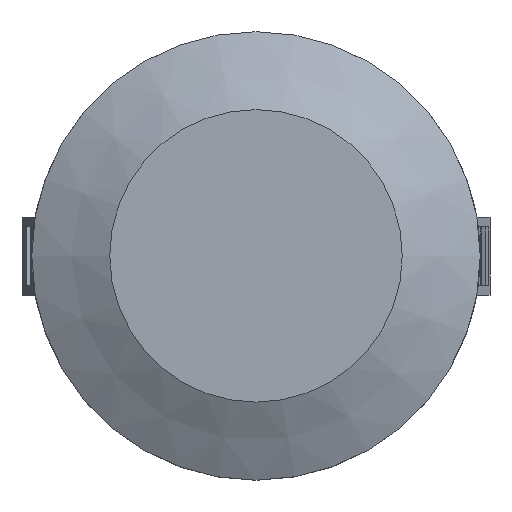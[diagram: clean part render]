
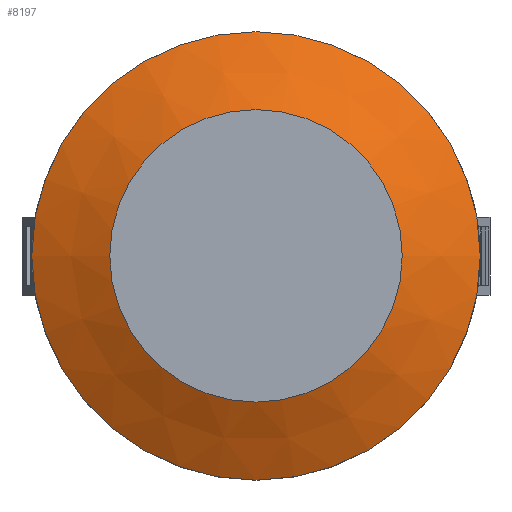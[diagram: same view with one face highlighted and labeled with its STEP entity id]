
A CAD part, top view. The second image highlights one B-rep face of the part: STEP entity #8197.
In plain terms, the highlighted conical face has half-angle 63.435 degrees and reference radius 5.75 mm.
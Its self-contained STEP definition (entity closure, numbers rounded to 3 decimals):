
#7898 = VERTEX_POINT('',#7899);
#7899 = CARTESIAN_POINT('',(5.75,0.,2.));
#7906 = CYLINDRICAL_SURFACE('',#7907,5.75);
#7907 = AXIS2_PLACEMENT_3D('',#7908,#7909,#7910);
#7908 = CARTESIAN_POINT('',(0.,0.,0.));
#7909 = DIRECTION('',(-0.,-0.,-1.));
#7910 = DIRECTION('',(1.,0.,0.));
#8171 = EDGE_CURVE('',#7898,#7898,#8172,.T.);
#8172 = SURFACE_CURVE('',#8173,(#8178,#8185),.PCURVE_S1.);
#8173 = CIRCLE('',#8174,5.75);
#8174 = AXIS2_PLACEMENT_3D('',#8175,#8176,#8177);
#8175 = CARTESIAN_POINT('',(0.,0.,2.));
#8176 = DIRECTION('',(0.,0.,1.));
#8177 = DIRECTION('',(1.,0.,0.));
#8178 = PCURVE('',#7906,#8179);
#8179 = DEFINITIONAL_REPRESENTATION('',(#8180),#8184);
#8180 = LINE('',#8181,#8182);
#8181 = CARTESIAN_POINT('',(-0.,-2.));
#8182 = VECTOR('',#8183,1.);
#8183 = DIRECTION('',(-1.,0.));
#8184 = ( GEOMETRIC_REPRESENTATION_CONTEXT(2) 
PARAMETRIC_REPRESENTATION_CONTEXT() REPRESENTATION_CONTEXT('2D SPACE',''
  ) );
#8185 = PCURVE('',#8186,#8191);
#8186 = CONICAL_SURFACE('',#8187,5.75,1.107);
#8187 = AXIS2_PLACEMENT_3D('',#8188,#8189,#8190);
#8188 = CARTESIAN_POINT('',(0.,0.,2.));
#8189 = DIRECTION('',(-0.,-0.,-1.));
#8190 = DIRECTION('',(1.,0.,0.));
#8191 = DEFINITIONAL_REPRESENTATION('',(#8192),#8196);
#8192 = LINE('',#8193,#8194);
#8193 = CARTESIAN_POINT('',(-0.,-0.));
#8194 = VECTOR('',#8195,1.);
#8195 = DIRECTION('',(-1.,-0.));
#8196 = ( GEOMETRIC_REPRESENTATION_CONTEXT(2) 
PARAMETRIC_REPRESENTATION_CONTEXT() REPRESENTATION_CONTEXT('2D SPACE',''
  ) );
#8197 = ADVANCED_FACE('',(#8198),#8186,.T.);
#8198 = FACE_BOUND('',#8199,.T.);
#8199 = EDGE_LOOP('',(#8200,#8223,#8224,#8225));
#8200 = ORIENTED_EDGE('',*,*,#8201,.F.);
#8201 = EDGE_CURVE('',#7898,#8202,#8204,.T.);
#8202 = VERTEX_POINT('',#8203);
#8203 = CARTESIAN_POINT('',(3.75,0.,3.));
#8204 = SEAM_CURVE('',#8205,(#8209,#8216),.PCURVE_S1.);
#8205 = LINE('',#8206,#8207);
#8206 = CARTESIAN_POINT('',(5.75,0.,2.));
#8207 = VECTOR('',#8208,1.);
#8208 = DIRECTION('',(-0.894,0.,0.447));
#8209 = PCURVE('',#8186,#8210);
#8210 = DEFINITIONAL_REPRESENTATION('',(#8211),#8215);
#8211 = LINE('',#8212,#8213);
#8212 = CARTESIAN_POINT('',(-0.,-0.));
#8213 = VECTOR('',#8214,1.);
#8214 = DIRECTION('',(-0.,-1.));
#8215 = ( GEOMETRIC_REPRESENTATION_CONTEXT(2) 
PARAMETRIC_REPRESENTATION_CONTEXT() REPRESENTATION_CONTEXT('2D SPACE',''
  ) );
#8216 = PCURVE('',#8186,#8217);
#8217 = DEFINITIONAL_REPRESENTATION('',(#8218),#8222);
#8218 = LINE('',#8219,#8220);
#8219 = CARTESIAN_POINT('',(-6.283,-0.));
#8220 = VECTOR('',#8221,1.);
#8221 = DIRECTION('',(-0.,-1.));
#8222 = ( GEOMETRIC_REPRESENTATION_CONTEXT(2) 
PARAMETRIC_REPRESENTATION_CONTEXT() REPRESENTATION_CONTEXT('2D SPACE',''
  ) );
#8223 = ORIENTED_EDGE('',*,*,#8171,.T.);
#8224 = ORIENTED_EDGE('',*,*,#8201,.T.);
#8225 = ORIENTED_EDGE('',*,*,#8226,.F.);
#8226 = EDGE_CURVE('',#8202,#8202,#8227,.T.);
#8227 = SURFACE_CURVE('',#8228,(#8233,#8240),.PCURVE_S1.);
#8228 = CIRCLE('',#8229,3.75);
#8229 = AXIS2_PLACEMENT_3D('',#8230,#8231,#8232);
#8230 = CARTESIAN_POINT('',(0.,0.,3.));
#8231 = DIRECTION('',(0.,0.,1.));
#8232 = DIRECTION('',(1.,0.,0.));
#8233 = PCURVE('',#8186,#8234);
#8234 = DEFINITIONAL_REPRESENTATION('',(#8235),#8239);
#8235 = LINE('',#8236,#8237);
#8236 = CARTESIAN_POINT('',(-0.,-1.));
#8237 = VECTOR('',#8238,1.);
#8238 = DIRECTION('',(-1.,-0.));
#8239 = ( GEOMETRIC_REPRESENTATION_CONTEXT(2) 
PARAMETRIC_REPRESENTATION_CONTEXT() REPRESENTATION_CONTEXT('2D SPACE',''
  ) );
#8240 = PCURVE('',#8241,#8246);
#8241 = PLANE('',#8242);
#8242 = AXIS2_PLACEMENT_3D('',#8243,#8244,#8245);
#8243 = CARTESIAN_POINT('',(0.,0.,3.));
#8244 = DIRECTION('',(0.,0.,1.));
#8245 = DIRECTION('',(1.,0.,0.));
#8246 = DEFINITIONAL_REPRESENTATION('',(#8247),#8251);
#8247 = CIRCLE('',#8248,3.75);
#8248 = AXIS2_PLACEMENT_2D('',#8249,#8250);
#8249 = CARTESIAN_POINT('',(0.,0.));
#8250 = DIRECTION('',(1.,0.));
#8251 = ( GEOMETRIC_REPRESENTATION_CONTEXT(2) 
PARAMETRIC_REPRESENTATION_CONTEXT() REPRESENTATION_CONTEXT('2D SPACE',''
  ) );
